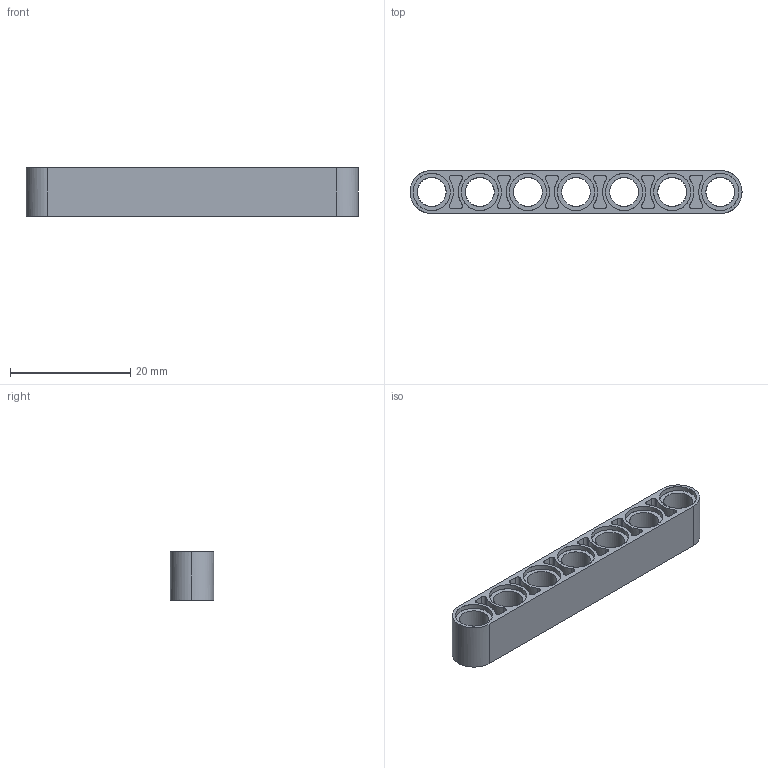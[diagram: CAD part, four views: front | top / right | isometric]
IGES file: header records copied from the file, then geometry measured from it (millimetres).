
Start section: C
Global section: file name: Ye_4495934_AVV.iges; native system: By Siemens PLM Incorporated; preprocessor: XPlus GENERIC/IGES 26.1.183; author: Author; organization: Title; date: 20250722.000903; units: millimetre
Bounding box: 55.2 x 7.2 x 8 mm (x, y, z)
Surface area: 2934.1 mm2 (no closed solid volume)
Topology: 0 solids, 0 shells, 187 faces, 1038 edges, 1038 vertices
Faces by surface type: bspline 187
